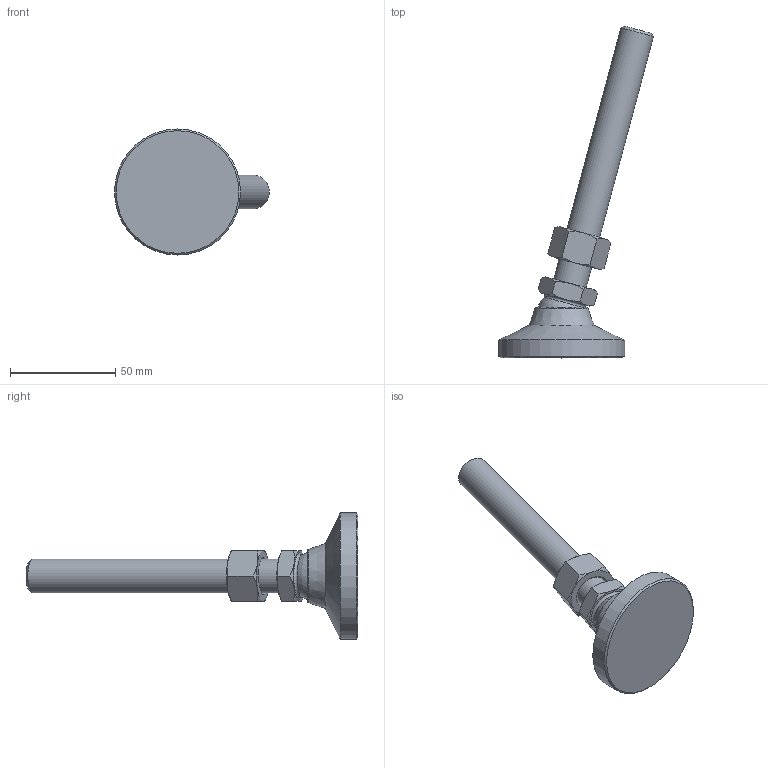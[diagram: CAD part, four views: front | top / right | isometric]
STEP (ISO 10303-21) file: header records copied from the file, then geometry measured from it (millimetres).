
FILE_DESCRIPTION( ( 'STEP AP214' ), ' ' );
FILE_NAME( 'O:/ganter_2015/teil_2/2_5/gn343_2/gn343_2_os/Levelling foot with threaded stud GN 343.2-60-M16-125-OS-(-15).stp', '2015-10-26T09:08:40', ( '' ), ( '' ), ' ', 'PARTsolutions', ' ' );
FILE_SCHEMA( ( 'AUTOMOTIVE_DESIGN { 1 0 10303 214 1 1 1 1 }' ) );
Length unit declared in the file: millimetre
Products named in the file (4): Levelling foot with threaded stud GN 343.2-60-M16-125-OS-(-15); _Levelling foot with threaded stud GN 343.2-60-M16-125-OS-(-15)_foot; _Levelling foot with threaded stud GN 343.2-60-M16-125-OS-(-15)_screw; _Stainless Steel-Levelling feet GN 343.2-60-M16-125-OS-(-15)_nut
Assembly tree (3 placements, depth 2):
  Levelling foot with threaded stud GN 343.2-60-M16-125-OS-(-15)
    _Levelling foot with threaded stud GN 343.2-60-M16-125-OS-(-15)_foot
    _Levelling foot with threaded stud GN 343.2-60-M16-125-OS-(-15)_screw
    _Stainless Steel-Levelling feet GN 343.2-60-M16-125-OS-(-15)_nut
Bounding box: 73.77 x 157.97 x 60 mm (x, y, z)
Volume: 76475 mm3; surface area: 20024.1 mm2
Topology: 3 solids, 3 shells, 56 faces, 117 edges, 68 vertices
Faces by surface type: cone 30, plane 19, cylinder 3, torus 2, sphere 2
Full cylindrical faces by diameter (mm): 13.835 x1, 16 x1, 60 x1
Entity records: 2082 total; most frequent: CARTESIAN_POINT 514, DIRECTION 212, ORIENTED_EDGE 200, AXIS2_PLACEMENT_3D 100, EDGE_CURVE 100, EDGE_LOOP 72, VERTEX_POINT 66, FACE_OUTER_BOUND 61
